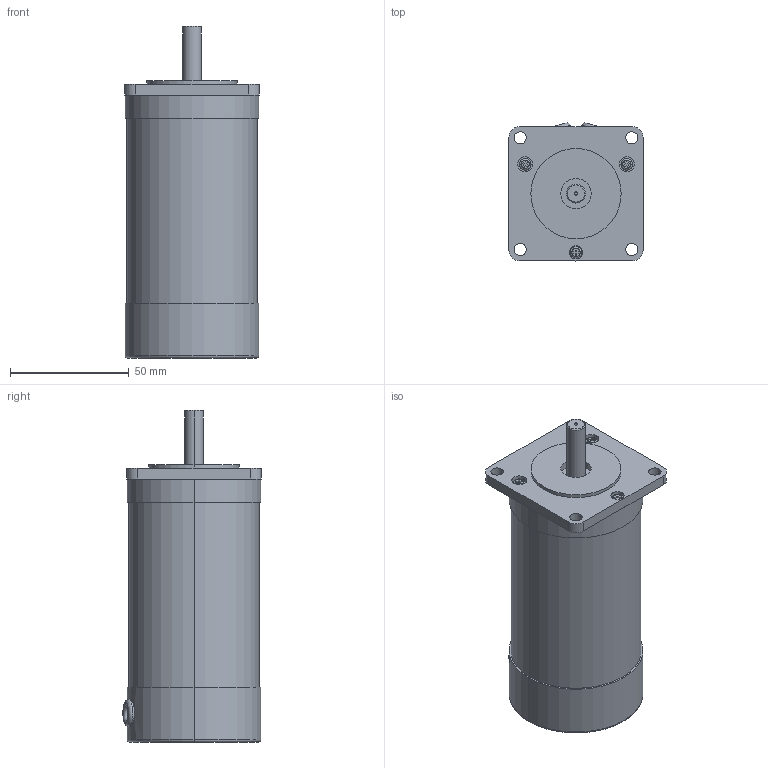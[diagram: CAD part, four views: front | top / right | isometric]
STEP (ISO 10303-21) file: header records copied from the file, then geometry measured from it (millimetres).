
FILE_DESCRIPTION (( 'STEP AP203' ), '1' );
FILE_NAME ('BLDC_Brushless_motor_57DMWH115_NEMA23_NoGearhead_Phidgets_DCM4112_0.STEP', '2022-06-28T21:53:34', ( '' ), ( '' ), 'SwSTEP 2.0', 'SolidWorks 2020', '' );
FILE_SCHEMA (( 'CONFIG_CONTROL_DESIGN' ));
Length unit declared in the file: millimetre
Products named in the file (1): BLDC_Brushless_motor_57DMWH115_NEMA23_NoGearhead_Phidgets_DCM4112_0
Bounding box: 56.55 x 58.24 x 139.95 mm (x, y, z)
Volume: 283422.4 mm3; surface area: 28940.6 mm2
Topology: 1 solids, 1 shells, 169 faces, 410 edges, 268 vertices
Faces by surface type: plane 69, cylinder 66, bspline 16, torus 10, cone 8
Entity records: 6577 total; most frequent: CARTESIAN_POINT 2502, DIRECTION 840, ORIENTED_EDGE 820, EDGE_CURVE 410, AXIS2_PLACEMENT_3D 320, VERTEX_POINT 268, EDGE_LOOP 202, VECTOR 200
